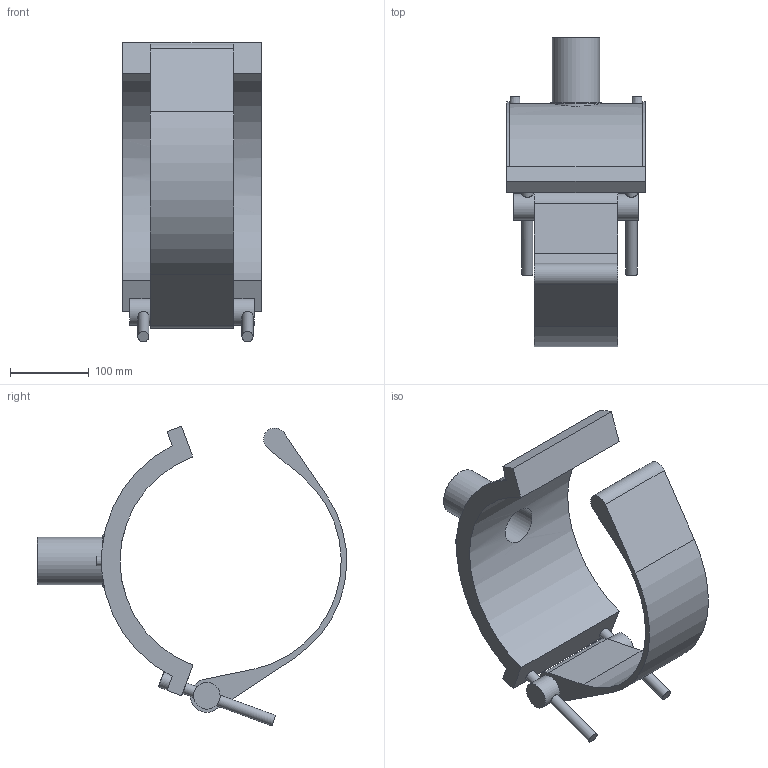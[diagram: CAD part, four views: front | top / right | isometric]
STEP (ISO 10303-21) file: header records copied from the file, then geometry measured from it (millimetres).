
FILE_DESCRIPTION(/* description */ ('PLASSON BRANCH SADDLE 10''''DIPS x 2''''IPS'),/* implementation_level */ '2;1');
FILE_NAME(/* name */ 'C:\Dropbox\KIMPROJECTS-Inventor 2019\99-16-3568-Processing Inch\ASTM ElectroFusion 2021\5958D (2)\5958DB03100020.ipt.stp',/* time_stamp */ '2021-08-30T09:54:33+03:00',/* author */ ('KIM'),/* organization */ (''),/* preprocessor_version */ 'ST-DEVELOPER v17.2',/* originating_system */ 'Autodesk Inventor 2019',/* authorisation */ '');
FILE_SCHEMA (('AUTOMOTIVE_DESIGN { 1 0 10303 214 3 1 1 }'));
Length unit declared in the file: inch
Products named in the file (1): 5958DB03100020
Bounding box: 176.02 x 392.41 x 380.04 mm (x, y, z)
Volume: 2346462.6 mm3; surface area: 337419.7 mm2
Topology: 1 solids, 1 shells, 57 faces, 129 edges, 90 vertices
Faces by surface type: plane 30, cylinder 23, cone 3, torus 1
Full cylindrical faces by diameter (mm): 4 x2, 10 x2, 14.03 x4, 19.642 x2, 33.672 x2, 48.08 x1, 60.1 x1, 66.11 x1
Entity records: 1985 total; most frequent: CARTESIAN_POINT 613, DIRECTION 280, ORIENTED_EDGE 258, EDGE_CURVE 129, AXIS2_PLACEMENT_3D 109, VERTEX_POINT 90, EDGE_LOOP 77, LINE 62
